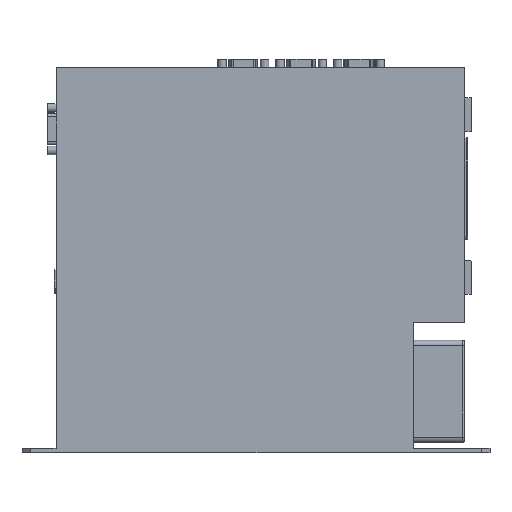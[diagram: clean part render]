
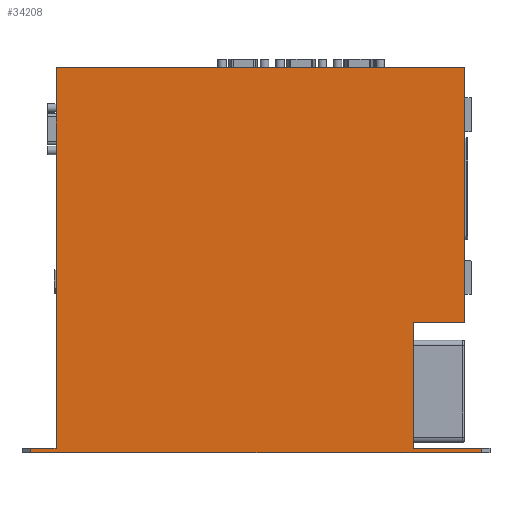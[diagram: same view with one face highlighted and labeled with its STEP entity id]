
A CAD part, left-side view. The second image highlights one B-rep face of the part: STEP entity #34208.
In plain terms, the highlighted planar face has unit normal (-1, 0, 0).
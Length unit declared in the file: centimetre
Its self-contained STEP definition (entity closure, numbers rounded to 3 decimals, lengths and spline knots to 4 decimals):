
#3460=VERTEX_POINT('',#43077);
#3463=VERTEX_POINT('',#43082);
#4045=VERTEX_POINT('',#44836);
#5802=VERTEX_POINT('',#56413);
#6285=VERTEX_POINT('',#57975);
#6286=VERTEX_POINT('',#57977);
#6287=VERTEX_POINT('',#57984);
#6288=VERTEX_POINT('',#57986);
#6289=VERTEX_POINT('',#57988);
#6290=VERTEX_POINT('',#57990);
#6624=VECTOR('',#36353,1.);
#6909=VECTOR('',#37085,1.);
#8928=VECTOR('',#39971,1.);
#9323=VECTOR('',#41478,1.);
#9326=VECTOR('',#41482,1.);
#9327=VECTOR('',#41484,1.);
#9328=VECTOR('',#41485,1.);
#9329=VECTOR('',#41486,1.);
#9330=VECTOR('',#41487,1.);
#9331=VECTOR('',#41488,1.);
#9678=LINE('',#43083,#6624);
#9963=LINE('',#44837,#6909);
#11982=LINE('',#56416,#8928);
#12377=LINE('',#57976,#9323);
#12380=LINE('',#57981,#9326);
#12381=LINE('',#57983,#9327);
#12382=LINE('',#57985,#9328);
#12383=LINE('',#57987,#9329);
#12384=LINE('',#57989,#9330);
#12385=LINE('',#57991,#9331);
#12961=EDGE_CURVE('',#3460,#3463,#9678,.T.);
#13592=EDGE_CURVE('',#3463,#4045,#9963,.T.);
#16633=EDGE_CURVE('',#5802,#3460,#11982,.T.);
#17309=EDGE_CURVE('',#6286,#6285,#12377,.T.);
#17312=EDGE_CURVE('',#6285,#5802,#12380,.T.);
#17313=EDGE_CURVE('',#6287,#6286,#12381,.T.);
#17314=EDGE_CURVE('',#4045,#6288,#12382,.T.);
#17315=EDGE_CURVE('',#6289,#6288,#12383,.T.);
#17316=EDGE_CURVE('',#6290,#6289,#12384,.T.);
#17317=EDGE_CURVE('',#6290,#6287,#12385,.T.);
#27155=ORIENTED_EDGE('',*,*,#17313,.T.);
#27156=ORIENTED_EDGE('',*,*,#17309,.T.);
#27157=ORIENTED_EDGE('',*,*,#17312,.T.);
#27158=ORIENTED_EDGE('',*,*,#16633,.T.);
#27159=ORIENTED_EDGE('',*,*,#12961,.T.);
#27160=ORIENTED_EDGE('',*,*,#13592,.T.);
#27161=ORIENTED_EDGE('',*,*,#17314,.T.);
#27162=ORIENTED_EDGE('',*,*,#17315,.F.);
#27163=ORIENTED_EDGE('',*,*,#17316,.F.);
#27164=ORIENTED_EDGE('',*,*,#17317,.T.);
#29738=EDGE_LOOP('',(#27155,#27156,#27157,#27158,#27159,#27160,#27161,#27162,
#27163,#27164));
#32192=FACE_BOUND('',#29738,.T.);
#34208=ADVANCED_FACE('',(#32192),#59112,.T.);
#35977=AXIS2_PLACEMENT_3D('',#57982,#41483,$);
#36353=DIRECTION('',(0.,1.,0.));
#37085=DIRECTION('',(0.,0.,-1.));
#39971=DIRECTION('',(0.,0.,1.));
#41478=DIRECTION('',(0.,0.,1.));
#41482=DIRECTION('',(0.,-1.,0.));
#41483=DIRECTION('',(-1.,0.,0.));
#41484=DIRECTION('',(0.,1.,0.));
#41485=DIRECTION('',(0.,1.,0.));
#41486=DIRECTION('',(0.,0.,1.));
#41487=DIRECTION('',(0.,1.,0.));
#41488=DIRECTION('',(0.,0.,1.));
#43077=CARTESIAN_POINT('',(0.,1.5,22.6));
#43082=CARTESIAN_POINT('',(0.,25.5,22.6));
#43083=CARTESIAN_POINT('',(0.,0.5,22.6));
#44836=CARTESIAN_POINT('',(0.,25.5,0.25));
#44837=CARTESIAN_POINT('',(0.,25.5,11.3));
#56413=CARTESIAN_POINT('',(0.,1.5,7.65));
#56416=CARTESIAN_POINT('',(0.,1.5,11.3));
#57975=CARTESIAN_POINT('',(0.,4.5,7.65));
#57976=CARTESIAN_POINT('',(0.,4.5,1.975));
#57977=CARTESIAN_POINT('',(0.,4.5,0.25));
#57981=CARTESIAN_POINT('',(0.,7.625,7.65));
#57982=CARTESIAN_POINT('',(0.,13.75,0.));
#57983=CARTESIAN_POINT('',(0.,7.625,0.25));
#57984=CARTESIAN_POINT('',(0.,0.5,0.25));
#57985=CARTESIAN_POINT('',(0.,20.2375,0.25));
#57986=CARTESIAN_POINT('',(0.,27.,0.25));
#57987=CARTESIAN_POINT('',(0.,27.,0.));
#57988=CARTESIAN_POINT('',(0.,27.,0.));
#57989=CARTESIAN_POINT('',(0.,0.5,0.));
#57990=CARTESIAN_POINT('',(0.,0.5,0.));
#57991=CARTESIAN_POINT('',(0.,0.5,0.));
#59112=PLANE('',#35977);
